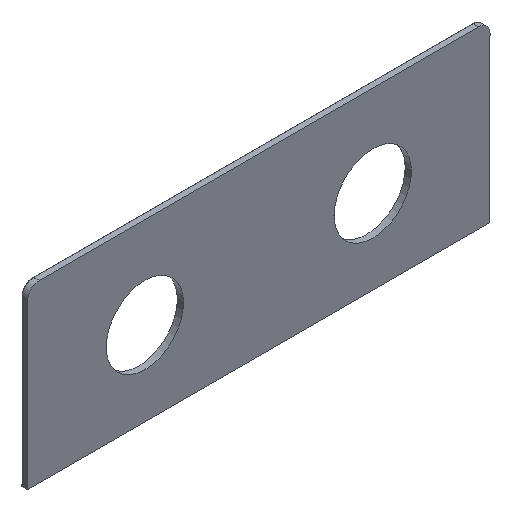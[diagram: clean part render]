
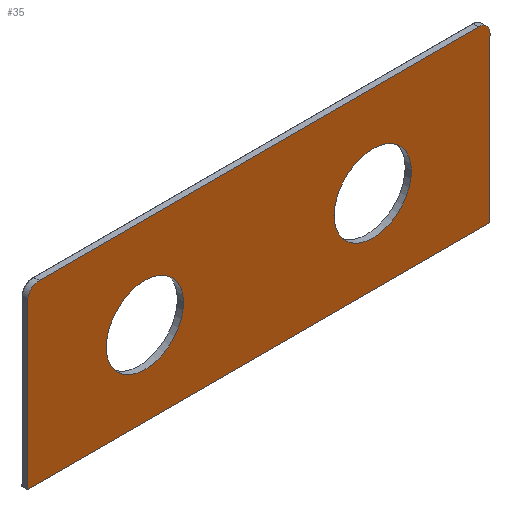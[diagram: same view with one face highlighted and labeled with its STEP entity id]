
A CAD part, isometric view. The second image highlights one B-rep face of the part: STEP entity #35.
In plain terms, the highlighted planar face has unit normal (0, -1, 0).
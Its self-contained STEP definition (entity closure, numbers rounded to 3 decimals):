
#35 = ADVANCED_FACE('',(#36,#88,#108),#128,.T.);
#36 = FACE_BOUND('',#37,.T.);
#37 = EDGE_LOOP('',(#38,#48,#57,#65,#74,#82));
#38 = ORIENTED_EDGE('',*,*,#39,.F.);
#39 = EDGE_CURVE('',#40,#42,#44,.T.);
#40 = VERTEX_POINT('',#41);
#41 = CARTESIAN_POINT('',(598.5,0.,
    424.));
#42 = VERTEX_POINT('',#43);
#43 = CARTESIAN_POINT('',(598.5,0.,
    0.));
#44 = LINE('',#45,#46);
#45 = CARTESIAN_POINT('',(598.5,0.,
    0.));
#46 = VECTOR('',#47,1.);
#47 = DIRECTION('',(0.,0.,-1.));
#48 = ORIENTED_EDGE('',*,*,#49,.T.);
#49 = EDGE_CURVE('',#40,#50,#52,.T.);
#50 = VERTEX_POINT('',#51);
#51 = CARTESIAN_POINT('',(568.5,0.,
    454.));
#52 = CIRCLE('',#53,30.);
#53 = AXIS2_PLACEMENT_3D('',#54,#55,#56);
#54 = CARTESIAN_POINT('',(568.5,0.,
    424.));
#55 = DIRECTION('',(0.,-1.,0.));
#56 = DIRECTION('',(1.,0.,0.));
#57 = ORIENTED_EDGE('',*,*,#58,.T.);
#58 = EDGE_CURVE('',#50,#59,#61,.T.);
#59 = VERTEX_POINT('',#60);
#60 = CARTESIAN_POINT('',(-568.5,0.,
    454.));
#61 = LINE('',#62,#63);
#62 = CARTESIAN_POINT('',(568.5,0.,
    454.));
#63 = VECTOR('',#64,1.);
#64 = DIRECTION('',(-1.,0.,0.));
#65 = ORIENTED_EDGE('',*,*,#66,.T.);
#66 = EDGE_CURVE('',#59,#67,#69,.T.);
#67 = VERTEX_POINT('',#68);
#68 = CARTESIAN_POINT('',(-598.5,0.,
    424.));
#69 = CIRCLE('',#70,30.);
#70 = AXIS2_PLACEMENT_3D('',#71,#72,#73);
#71 = CARTESIAN_POINT('',(-568.5,0.,
    424.));
#72 = DIRECTION('',(0.,-1.,0.));
#73 = DIRECTION('',(0.,0.,1.));
#74 = ORIENTED_EDGE('',*,*,#75,.T.);
#75 = EDGE_CURVE('',#67,#76,#78,.T.);
#76 = VERTEX_POINT('',#77);
#77 = CARTESIAN_POINT('',(-598.5,0.,
    0.));
#78 = LINE('',#79,#80);
#79 = CARTESIAN_POINT('',(-598.5,0.,
    424.));
#80 = VECTOR('',#81,1.);
#81 = DIRECTION('',(0.,0.,-1.));
#82 = ORIENTED_EDGE('',*,*,#83,.T.);
#83 = EDGE_CURVE('',#76,#42,#84,.T.);
#84 = LINE('',#85,#86);
#85 = CARTESIAN_POINT('',(598.5,0.,
    0.));
#86 = VECTOR('',#87,1.);
#87 = DIRECTION('',(1.,0.,0.));
#88 = FACE_BOUND('',#89,.T.);
#89 = EDGE_LOOP('',(#90,#101));
#90 = ORIENTED_EDGE('',*,*,#91,.T.);
#91 = EDGE_CURVE('',#92,#94,#96,.T.);
#92 = VERTEX_POINT('',#93);
#93 = CARTESIAN_POINT('',(-395.,0.,
    217.5));
#94 = VERTEX_POINT('',#95);
#95 = CARTESIAN_POINT('',(-195.,0.,
    217.5));
#96 = CIRCLE('',#97,100.);
#97 = AXIS2_PLACEMENT_3D('',#98,#99,#100);
#98 = CARTESIAN_POINT('',(-295.,0.,
    217.5));
#99 = DIRECTION('',(0.,1.,0.));
#100 = DIRECTION('',(1.,0.,-0.));
#101 = ORIENTED_EDGE('',*,*,#102,.T.);
#102 = EDGE_CURVE('',#94,#92,#103,.T.);
#103 = CIRCLE('',#104,100.);
#104 = AXIS2_PLACEMENT_3D('',#105,#106,#107);
#105 = CARTESIAN_POINT('',(-295.,0.,
    217.5));
#106 = DIRECTION('',(0.,1.,0.));
#107 = DIRECTION('',(1.,0.,-0.));
#108 = FACE_BOUND('',#109,.T.);
#109 = EDGE_LOOP('',(#110,#121));
#110 = ORIENTED_EDGE('',*,*,#111,.T.);
#111 = EDGE_CURVE('',#112,#114,#116,.T.);
#112 = VERTEX_POINT('',#113);
#113 = CARTESIAN_POINT('',(395.,0.,217.5));
#114 = VERTEX_POINT('',#115);
#115 = CARTESIAN_POINT('',(195.,0.,217.5));
#116 = CIRCLE('',#117,100.);
#117 = AXIS2_PLACEMENT_3D('',#118,#119,#120);
#118 = CARTESIAN_POINT('',(295.,0.,217.5));
#119 = DIRECTION('',(0.,1.,0.));
#120 = DIRECTION('',(-1.,0.,0.));
#121 = ORIENTED_EDGE('',*,*,#122,.T.);
#122 = EDGE_CURVE('',#114,#112,#123,.T.);
#123 = CIRCLE('',#124,100.);
#124 = AXIS2_PLACEMENT_3D('',#125,#126,#127);
#125 = CARTESIAN_POINT('',(295.,0.,217.5));
#126 = DIRECTION('',(0.,1.,0.));
#127 = DIRECTION('',(-1.,0.,0.));
#128 = PLANE('',#129);
#129 = AXIS2_PLACEMENT_3D('',#130,#131,#132);
#130 = CARTESIAN_POINT('',(-573.5,0.,
    0.));
#131 = DIRECTION('',(0.,-1.,0.));
#132 = DIRECTION('',(0.,0.,-1.));
